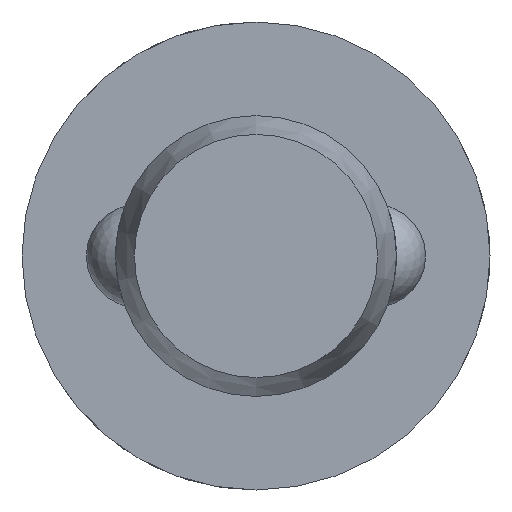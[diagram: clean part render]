
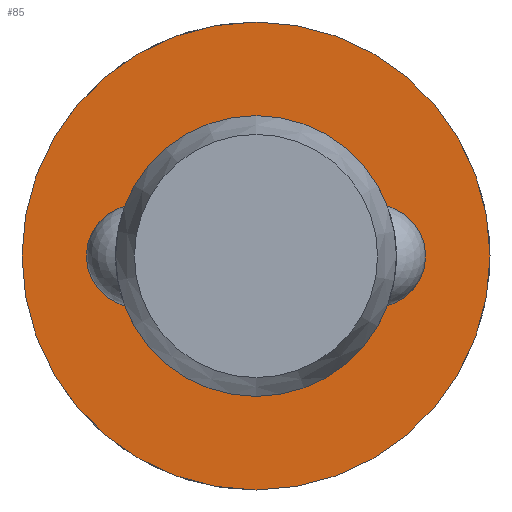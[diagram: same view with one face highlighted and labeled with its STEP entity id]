
A CAD part, left-side view. The second image highlights one B-rep face of the part: STEP entity #85.
In plain terms, the highlighted planar face has unit normal (-1, 0, 0).
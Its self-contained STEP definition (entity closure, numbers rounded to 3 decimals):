
#85 = ADVANCED_FACE( '', ( #130, #131 ), #132, .F. );
#130 = FACE_OUTER_BOUND( '', #201, .T. );
#131 = FACE_BOUND( '', #202, .T. );
#132 = PLANE( '', #203 );
#201 = EDGE_LOOP( '', ( #317 ) );
#202 = EDGE_LOOP( '', ( #318 ) );
#203 = AXIS2_PLACEMENT_3D( '', #319, #320, #321 );
#317 = ORIENTED_EDGE( '', *, *, #461, .F. );
#318 = ORIENTED_EDGE( '', *, *, #458, .T. );
#319 = CARTESIAN_POINT( '', ( 45.6, 6., 0. ) );
#320 = DIRECTION( '', ( 1., 0., 0. ) );
#321 = DIRECTION( '', ( 0., 0., -1. ) );
#458 = EDGE_CURVE( '', #532, #532, #533, .T. );
#461 = EDGE_CURVE( '', #538, #538, #539, .T. );
#532 = VERTEX_POINT( '', #742 );
#533 = CIRCLE( '', #743, 6. );
#538 = VERTEX_POINT( '', #858 );
#539 = CIRCLE( '', #859, 10. );
#742 = CARTESIAN_POINT( '', ( 45.6, 0., -6. ) );
#743 = AXIS2_PLACEMENT_3D( '', #936, #937, #938 );
#858 = CARTESIAN_POINT( '', ( 45.6, 0., -10. ) );
#859 = AXIS2_PLACEMENT_3D( '', #939, #940, #941 );
#936 = CARTESIAN_POINT( '', ( 45.6, 0., 0. ) );
#937 = DIRECTION( '', ( 1., 0., 0. ) );
#938 = DIRECTION( '', ( 0., 0., -1. ) );
#939 = CARTESIAN_POINT( '', ( 45.6, 0., 0. ) );
#940 = DIRECTION( '', ( 1., 0., 0. ) );
#941 = DIRECTION( '', ( 0., 0., -1. ) );
